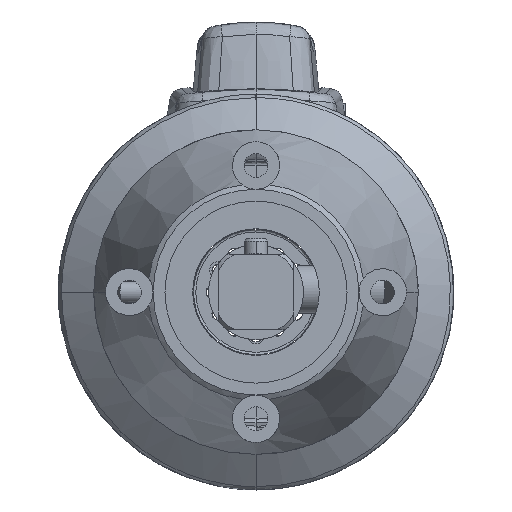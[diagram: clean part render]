
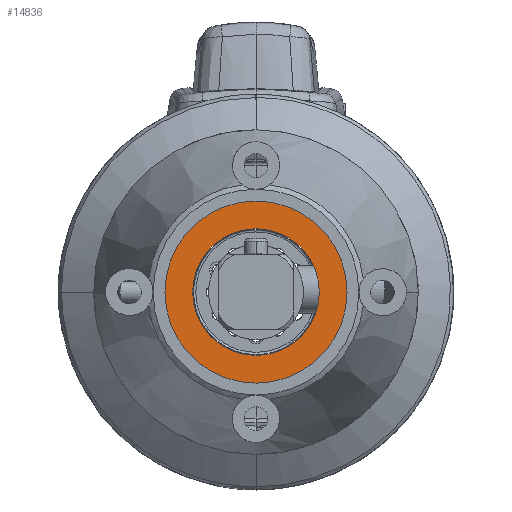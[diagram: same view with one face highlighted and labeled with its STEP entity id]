
A CAD part, left-side view. The second image highlights one B-rep face of the part: STEP entity #14836.
In plain terms, the highlighted planar face has unit normal (-1, 0, 0).
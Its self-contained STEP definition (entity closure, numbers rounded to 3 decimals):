
#1156 = CIRCLE ( 'NONE', #83342, 11.5 ) ;
#3612 = CARTESIAN_POINT ( 'NONE',  ( -65.017, 0., 0. ) ) ;
#8084 = VERTEX_POINT ( 'NONE', #73408 ) ;
#8189 = EDGE_CURVE ( 'NONE', #133382, #8084, #45848, .T. ) ;
#14836 = ADVANCED_FACE ( 'NONE', ( #45227, #20962 ), #23837, .T. ) ;
#17509 = DIRECTION ( 'NONE',  ( 0., -1., 0. ) ) ;
#18025 = CARTESIAN_POINT ( 'NONE',  ( -65.017, 0., 0. ) ) ;
#20962 = FACE_OUTER_BOUND ( 'NONE', #50889, .T. ) ;
#22410 = DIRECTION ( 'NONE',  ( -1., 0., 0. ) ) ;
#22634 = DIRECTION ( 'NONE',  ( 0., 1., 0. ) ) ;
#23837 = PLANE ( 'NONE',  #26937 ) ;
#26937 = AXIS2_PLACEMENT_3D ( 'NONE', #90061, #22410, #57704 ) ;
#29129 = ORIENTED_EDGE ( 'NONE', *, *, #122967, .T. ) ;
#29777 = DIRECTION ( 'NONE',  ( 0., -1., 0. ) ) ;
#32031 = ORIENTED_EDGE ( 'NONE', *, *, #143307, .T. ) ;
#33822 = CARTESIAN_POINT ( 'NONE',  ( -65.017, -8., 0. ) ) ;
#45227 = FACE_BOUND ( 'NONE', #55622, .T. ) ;
#45848 = CIRCLE ( 'NONE', #57598, 8. ) ;
#50889 = EDGE_LOOP ( 'NONE', ( #83232, #29129 ) ) ;
#53954 = VERTEX_POINT ( 'NONE', #89646 ) ;
#55622 = EDGE_LOOP ( 'NONE', ( #128493, #32031 ) ) ;
#55802 = AXIS2_PLACEMENT_3D ( 'NONE', #18025, #130457, #29777 ) ;
#57598 = AXIS2_PLACEMENT_3D ( 'NONE', #3612, #140299, #17509 ) ;
#57704 = DIRECTION ( 'NONE',  ( 0., -1., 0. ) ) ;
#57911 = AXIS2_PLACEMENT_3D ( 'NONE', #97694, #134366, #22634 ) ;
#62846 = CIRCLE ( 'NONE', #55802, 8. ) ;
#67630 = CARTESIAN_POINT ( 'NONE',  ( -65.017, 11.5, 0. ) ) ;
#70489 = CARTESIAN_POINT ( 'NONE',  ( -65.017, 0., 0. ) ) ;
#73408 = CARTESIAN_POINT ( 'NONE',  ( -65.017, 8., 0. ) ) ;
#79126 = EDGE_CURVE ( 'NONE', #111367, #53954, #114193, .T. ) ;
#83232 = ORIENTED_EDGE ( 'NONE', *, *, #79126, .T. ) ;
#83342 = AXIS2_PLACEMENT_3D ( 'NONE', #70489, #92543, #139528 ) ;
#89646 = CARTESIAN_POINT ( 'NONE',  ( -65.017, -11.5, 0. ) ) ;
#90061 = CARTESIAN_POINT ( 'NONE',  ( -65.017, 0., 0. ) ) ;
#92543 = DIRECTION ( 'NONE',  ( -1., 0., 0. ) ) ;
#97694 = CARTESIAN_POINT ( 'NONE',  ( -65.017, 0., 0. ) ) ;
#111367 = VERTEX_POINT ( 'NONE', #67630 ) ;
#114193 = CIRCLE ( 'NONE', #57911, 11.5 ) ;
#122967 = EDGE_CURVE ( 'NONE', #53954, #111367, #1156, .T. ) ;
#128493 = ORIENTED_EDGE ( 'NONE', *, *, #8189, .T. ) ;
#130457 = DIRECTION ( 'NONE',  ( 1., 0., 0. ) ) ;
#133382 = VERTEX_POINT ( 'NONE', #33822 ) ;
#134366 = DIRECTION ( 'NONE',  ( -1., 0., 0. ) ) ;
#139528 = DIRECTION ( 'NONE',  ( 0., 1., 0. ) ) ;
#140299 = DIRECTION ( 'NONE',  ( 1., 0., 0. ) ) ;
#143307 = EDGE_CURVE ( 'NONE', #8084, #133382, #62846, .T. ) ;
